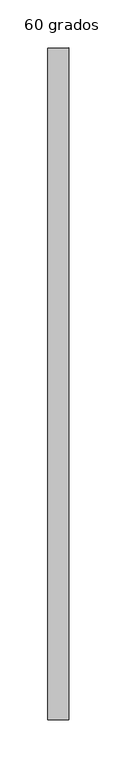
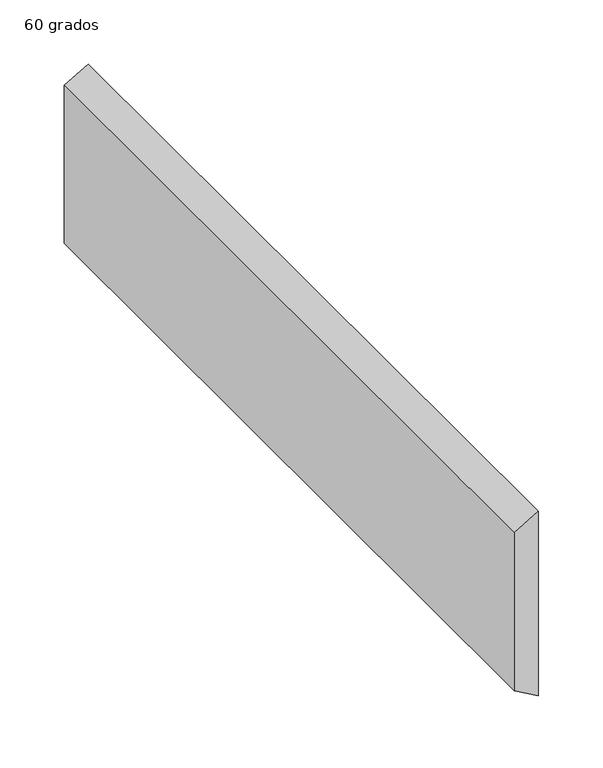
"""IFC4 building model written with IfcOpenShell, lengths in millimetres: duct fitting geometry, M_Transición rectangular - Ángulo : 60 grados."""

from ifc_helpers import new_model, si_unit, frame, origin, place, context, project, spatial, polyline, outline, extrude, source, transform, mapped, element, save


def duct_fitting_60_grados_1b2350eb(model_context):
    return source(origin(), model_context, "Body", "SweptSolid", [
        extrude(outline(polyline([(75.0, 0.0), (-75.0, 0.0), (-87.5, 21.6506351), (87.5, 21.6506351), (75.0, 0.0)])), frame((0.0, -350.0, 0.0), z_axis=(0.0, 1.0, 0.0), x_axis=(0.0, 0.0, 1.0)), (0.0, 0.0, 1.0), 700.0),
    ])


if __name__ == "__main__":
    model = new_model("IFC4")
    model_context = context("Model", 3, world=origin())
    ifc_project = project(units=[si_unit("LENGTHUNIT", "METRE", prefix="MILLI")], contexts=[model_context])
    site = spatial("IfcSite", under=ifc_project)
    building = spatial("IfcBuilding", under=site)
    placement = place(None, origin())
    duct_fitting_60_grados_shape = duct_fitting_60_grados_1b2350eb(model_context)
    element("IfcDuctFitting", 1, ObjectType="M_Transición rectangular - Ángulo : 60 grados", at=placement, inside=building, context=model_context, shape_type="MappedRepresentation", body=[
        mapped(duct_fitting_60_grados_shape, transform((0.0, 0.0, 0.0), x_axis=(1.0, 0.0, 0.0), y_axis=(0.0, 1.0, 0.0), z_axis=(0.0, 0.0, 1.0))),
    ])
    save(model, "model.ifc")
